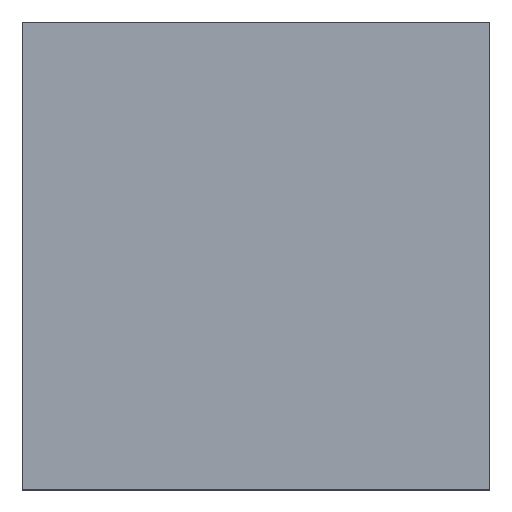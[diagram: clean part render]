
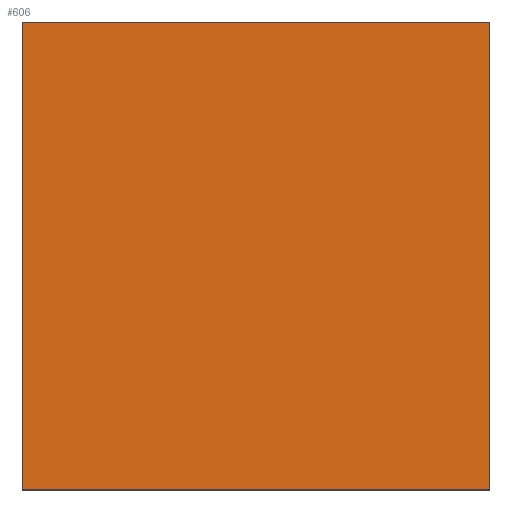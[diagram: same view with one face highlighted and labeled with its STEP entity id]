
A CAD part, top view. The second image highlights one B-rep face of the part: STEP entity #606.
In plain terms, the highlighted planar face has unit normal (0, 0, 1).
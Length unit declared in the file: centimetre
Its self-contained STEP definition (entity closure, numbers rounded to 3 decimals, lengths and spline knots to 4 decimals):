
#4 = DIRECTION ( 'NONE',  ( 0., 0., 1. ) ) ;
#31 = VERTEX_POINT ( 'NONE', #758 ) ;
#127 = DIRECTION ( 'NONE',  ( 1., 0., 0. ) ) ;
#147 = LINE ( 'NONE', #390, #152 ) ;
#151 = EDGE_CURVE ( 'NONE', #716, #31, #223, .T. ) ;
#152 = VECTOR ( 'NONE', #518, 100. ) ;
#163 = VECTOR ( 'NONE', #236, 100. ) ;
#166 = VECTOR ( 'NONE', #728, 100. ) ;
#170 = DIRECTION ( 'NONE',  ( 0., -1., 0. ) ) ;
#186 = PLANE ( 'NONE',  #217 ) ;
#217 = AXIS2_PLACEMENT_3D ( 'NONE', #767, #4, #127 ) ;
#221 = ORIENTED_EDGE ( 'NONE', *, *, #151, .T. ) ;
#223 = LINE ( 'NONE', #687, #360 ) ;
#230 = LINE ( 'NONE', #406, #163 ) ;
#236 = DIRECTION ( 'NONE',  ( 0., 1., 0. ) ) ;
#262 = VERTEX_POINT ( 'NONE', #688 ) ;
#263 = CARTESIAN_POINT ( 'NONE',  ( 0., 1000., 1000. ) ) ;
#299 = EDGE_CURVE ( 'NONE', #31, #511, #147, .T. ) ;
#360 = VECTOR ( 'NONE', #170, 100. ) ;
#374 = EDGE_CURVE ( 'NONE', #262, #716, #448, .T. ) ;
#390 = CARTESIAN_POINT ( 'NONE',  ( 0., 0., 1000. ) ) ;
#406 = CARTESIAN_POINT ( 'NONE',  ( 1000., 1000., 1000. ) ) ;
#435 = ORIENTED_EDGE ( 'NONE', *, *, #531, .T. ) ;
#448 = LINE ( 'NONE', #681, #166 ) ;
#511 = VERTEX_POINT ( 'NONE', #535 ) ;
#518 = DIRECTION ( 'NONE',  ( 1., 0., 0. ) ) ;
#531 = EDGE_CURVE ( 'NONE', #511, #262, #230, .T. ) ;
#535 = CARTESIAN_POINT ( 'NONE',  ( 1000., 0., 1000. ) ) ;
#541 = FACE_OUTER_BOUND ( 'NONE', #601, .T. ) ;
#601 = EDGE_LOOP ( 'NONE', ( #221, #683, #435, #732 ) ) ;
#606 = ADVANCED_FACE ( 'NONE', ( #541 ), #186, .T. ) ;
#681 = CARTESIAN_POINT ( 'NONE',  ( 0., 1000., 1000. ) ) ;
#683 = ORIENTED_EDGE ( 'NONE', *, *, #299, .T. ) ;
#687 = CARTESIAN_POINT ( 'NONE',  ( 0., 1000., 1000. ) ) ;
#688 = CARTESIAN_POINT ( 'NONE',  ( 1000., 1000., 1000. ) ) ;
#716 = VERTEX_POINT ( 'NONE', #263 ) ;
#728 = DIRECTION ( 'NONE',  ( -1., 0., 0. ) ) ;
#732 = ORIENTED_EDGE ( 'NONE', *, *, #374, .T. ) ;
#758 = CARTESIAN_POINT ( 'NONE',  ( 0., 0., 1000. ) ) ;
#767 = CARTESIAN_POINT ( 'NONE',  ( 0., 0., 1000. ) ) ;
